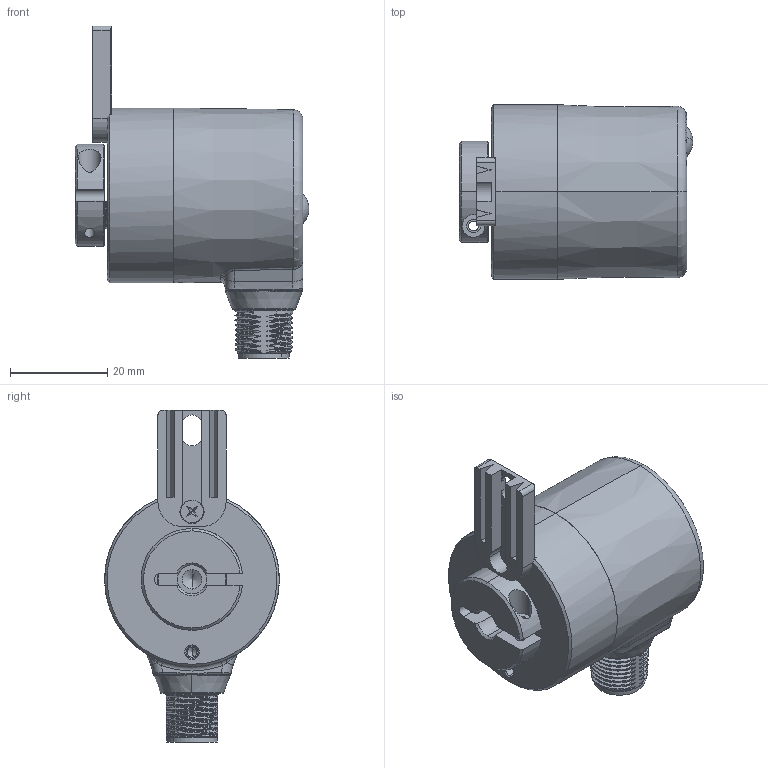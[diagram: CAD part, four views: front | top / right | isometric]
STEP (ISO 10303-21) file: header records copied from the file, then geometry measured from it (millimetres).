
FILE_DESCRIPTION (( 'STEP AP214' ), '1' );
FILE_NAME ('3671.22X4.XXXX.STEP', '2008-09-12T06:27:33', ( 'admin' ), ( 'Fritz Kübler GmbH' ), 'SwSTEP 2.0', 'SolidWorks 2008', '' );
FILE_SCHEMA (( 'AUTOMOTIVE_DESIGN' ));
Length unit declared in the file: millimetre
Products named in the file (1): 3671.22X4.XXXX
Bounding box: 48.19 x 36 x 68.4 mm (x, y, z)
Volume: 23216 mm3; surface area: 20283.2 mm2
Topology: 8 solids, 8 shells, 764 faces, 1832 edges, 1129 vertices
Faces by surface type: cylinder 206, plane 184, cone 155, bspline 130, torus 83, sphere 6
Entity records: 49812 total; most frequent: CARTESIAN_POINT 24515, ORIENTED_EDGE 3620, DIRECTION 3351, EDGE_CURVE 1810, AXIS2_PLACEMENT_3D 1366, VERTEX_POINT 1129, EDGE_LOOP 845, UNCERTAINTY_MEASURE_WITH_UNIT 773
